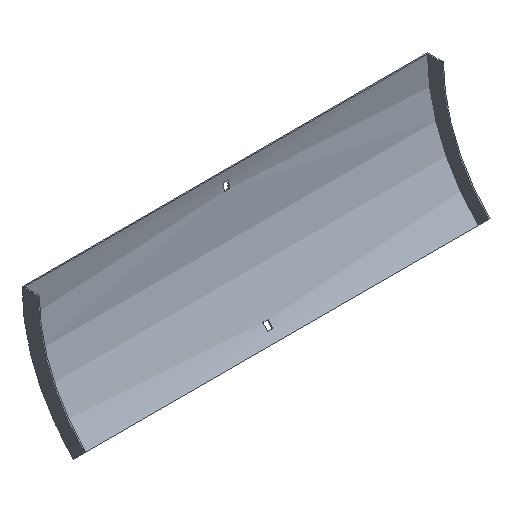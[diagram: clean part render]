
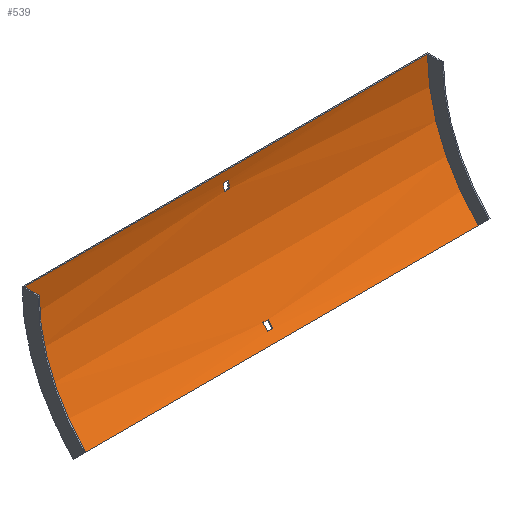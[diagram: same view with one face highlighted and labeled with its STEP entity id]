
A CAD part, isometric view. The second image highlights one B-rep face of the part: STEP entity #539.
In plain terms, the highlighted cylindrical face has radius 217.5 mm (diameter 435 mm), a partial arc.
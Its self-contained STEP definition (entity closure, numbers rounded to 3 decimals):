
#3 = VECTOR ( 'NONE', #334, 1000. ) ;
#9 = EDGE_CURVE ( 'NONE', #214, #136, #150, .T. ) ;
#17 = CARTESIAN_POINT ( 'NONE',  ( -3.25, -2.516, -21. ) ) ;
#22 = CARTESIAN_POINT ( 'NONE',  ( -3.25, -219., 0. ) ) ;
#24 = DIRECTION ( 'NONE',  ( -1., 0., 0. ) ) ;
#31 = DIRECTION ( 'NONE',  ( 0., 0., 1. ) ) ;
#38 = ORIENTED_EDGE ( 'NONE', *, *, #327, .T. ) ;
#43 = VECTOR ( 'NONE', #599, 1000. ) ;
#63 = ORIENTED_EDGE ( 'NONE', *, *, #606, .T. ) ;
#70 = EDGE_CURVE ( 'NONE', #458, #314, #195, .T. ) ;
#76 = CIRCLE ( 'NONE', #552, 217.5 ) ;
#82 = AXIS2_PLACEMENT_3D ( 'NONE', #297, #292, #533 ) ;
#86 = ORIENTED_EDGE ( 'NONE', *, *, #273, .F. ) ;
#89 = VERTEX_POINT ( 'NONE', #149 ) ;
#99 = DIRECTION ( 'NONE',  ( 0., 0., 1. ) ) ;
#102 = CARTESIAN_POINT ( 'NONE',  ( 252., -65.204, -153.796 ) ) ;
#104 = DIRECTION ( 'NONE',  ( 1., 0., 0. ) ) ;
#110 = CARTESIAN_POINT ( 'NONE',  ( -252., -65.204, -153.796 ) ) ;
#111 = CARTESIAN_POINT ( 'NONE',  ( 253.5, -2.516, -21. ) ) ;
#119 = FACE_BOUND ( 'NONE', #162, .T. ) ;
#125 = CARTESIAN_POINT ( 'NONE',  ( 252., -1.5, 0. ) ) ;
#133 = ORIENTED_EDGE ( 'NONE', *, *, #70, .F. ) ;
#136 = VERTEX_POINT ( 'NONE', #380 ) ;
#141 = EDGE_CURVE ( 'NONE', #89, #214, #566, .T. ) ;
#142 = ORIENTED_EDGE ( 'NONE', *, *, #141, .F. ) ;
#146 = CARTESIAN_POINT ( 'NONE',  ( 253.5, -1.831, -12. ) ) ;
#149 = CARTESIAN_POINT ( 'NONE',  ( 252., -65.204, -153.796 ) ) ;
#150 = CIRCLE ( 'NONE', #229, 217.5 ) ;
#152 = FACE_BOUND ( 'NONE', #445, .T. ) ;
#161 = CARTESIAN_POINT ( 'NONE',  ( 252., -1.5, 0. ) ) ;
#162 = EDGE_LOOP ( 'NONE', ( #38, #63, #287, #585 ) ) ;
#173 = EDGE_CURVE ( 'NONE', #268, #180, #354, .T. ) ;
#175 = VERTEX_POINT ( 'NONE', #17 ) ;
#176 = DIRECTION ( 'NONE',  ( -1., 0., 0. ) ) ;
#179 = DIRECTION ( 'NONE',  ( 0., 0., 1. ) ) ;
#180 = VERTEX_POINT ( 'NONE', #535 ) ;
#195 = LINE ( 'NONE', #146, #587 ) ;
#204 = LINE ( 'NONE', #111, #264 ) ;
#210 = VECTOR ( 'NONE', #505, 1000. ) ;
#214 = VERTEX_POINT ( 'NONE', #110 ) ;
#224 = LINE ( 'NONE', #420, #43 ) ;
#225 = VERTEX_POINT ( 'NONE', #412 ) ;
#229 = AXIS2_PLACEMENT_3D ( 'NONE', #339, #521, #99 ) ;
#237 = EDGE_CURVE ( 'NONE', #298, #268, #400, .T. ) ;
#250 = DIRECTION ( 'NONE',  ( 0., 0., -1. ) ) ;
#253 = CARTESIAN_POINT ( 'NONE',  ( -3.25, -56.953, -145.076 ) ) ;
#258 = ORIENTED_EDGE ( 'NONE', *, *, #528, .F. ) ;
#261 = DIRECTION ( 'NONE',  ( 0., 0., -1. ) ) ;
#262 = VECTOR ( 'NONE', #360, 1000. ) ;
#264 = VECTOR ( 'NONE', #104, 1000. ) ;
#268 = VERTEX_POINT ( 'NONE', #491 ) ;
#273 = EDGE_CURVE ( 'NONE', #225, #458, #369, .T. ) ;
#287 = ORIENTED_EDGE ( 'NONE', *, *, #237, .T. ) ;
#292 = DIRECTION ( 'NONE',  ( -1., 0., 0. ) ) ;
#297 = CARTESIAN_POINT ( 'NONE',  ( 253.5, -219., 0. ) ) ;
#298 = VERTEX_POINT ( 'NONE', #417 ) ;
#308 = CARTESIAN_POINT ( 'NONE',  ( 3.25, -219., 0. ) ) ;
#314 = VERTEX_POINT ( 'NONE', #366 ) ;
#322 = CIRCLE ( 'NONE', #355, 217.5 ) ;
#327 = EDGE_CURVE ( 'NONE', #180, #508, #224, .T. ) ;
#328 = DIRECTION ( 'NONE',  ( 0., 0., 1. ) ) ;
#334 = DIRECTION ( 'NONE',  ( -1., 0., 0. ) ) ;
#338 = EDGE_CURVE ( 'NONE', #560, #136, #549, .T. ) ;
#339 = CARTESIAN_POINT ( 'NONE',  ( -252., -219., 0. ) ) ;
#340 = DIRECTION ( 'NONE',  ( 1., 0., 0. ) ) ;
#345 = FACE_OUTER_BOUND ( 'NONE', #387, .T. ) ;
#353 = DIRECTION ( 'NONE',  ( 1., 0., 0. ) ) ;
#354 = CIRCLE ( 'NONE', #510, 217.5 ) ;
#355 = AXIS2_PLACEMENT_3D ( 'NONE', #525, #480, #179 ) ;
#358 = CARTESIAN_POINT ( 'NONE',  ( 3.25, -219., 0. ) ) ;
#360 = DIRECTION ( 'NONE',  ( 1., 0., 0. ) ) ;
#366 = CARTESIAN_POINT ( 'NONE',  ( -3.25, -1.831, -12. ) ) ;
#369 = CIRCLE ( 'NONE', #454, 217.5 ) ;
#380 = CARTESIAN_POINT ( 'NONE',  ( -252., -1.5, 0. ) ) ;
#383 = EDGE_CURVE ( 'NONE', #314, #175, #415, .T. ) ;
#387 = EDGE_LOOP ( 'NONE', ( #526, #142, #588, #591 ) ) ;
#398 = CYLINDRICAL_SURFACE ( 'NONE', #82, 217.5 ) ;
#400 = LINE ( 'NONE', #410, #262 ) ;
#410 = CARTESIAN_POINT ( 'NONE',  ( 253.5, -51.074, -138.228 ) ) ;
#412 = CARTESIAN_POINT ( 'NONE',  ( 3.25, -2.516, -21. ) ) ;
#415 = CIRCLE ( 'NONE', #530, 217.5 ) ;
#417 = CARTESIAN_POINT ( 'NONE',  ( -3.25, -51.074, -138.228 ) ) ;
#420 = CARTESIAN_POINT ( 'NONE',  ( 253.5, -56.953, -145.076 ) ) ;
#429 = DIRECTION ( 'NONE',  ( -1., 0., 0. ) ) ;
#431 = CARTESIAN_POINT ( 'NONE',  ( -3.25, -219., 0. ) ) ;
#445 = EDGE_LOOP ( 'NONE', ( #516, #133, #86, #258 ) ) ;
#454 = AXIS2_PLACEMENT_3D ( 'NONE', #358, #353, #261 ) ;
#458 = VERTEX_POINT ( 'NONE', #602 ) ;
#480 = DIRECTION ( 'NONE',  ( 1., 0., 0. ) ) ;
#491 = CARTESIAN_POINT ( 'NONE',  ( 3.25, -51.074, -138.228 ) ) ;
#496 = EDGE_CURVE ( 'NONE', #89, #560, #322, .T. ) ;
#505 = DIRECTION ( 'NONE',  ( -1., 0., 0. ) ) ;
#508 = VERTEX_POINT ( 'NONE', #253 ) ;
#510 = AXIS2_PLACEMENT_3D ( 'NONE', #308, #24, #31 ) ;
#516 = ORIENTED_EDGE ( 'NONE', *, *, #383, .F. ) ;
#521 = DIRECTION ( 'NONE',  ( 1., 0., 0. ) ) ;
#525 = CARTESIAN_POINT ( 'NONE',  ( 252., -219., 0. ) ) ;
#526 = ORIENTED_EDGE ( 'NONE', *, *, #9, .F. ) ;
#528 = EDGE_CURVE ( 'NONE', #175, #225, #204, .T. ) ;
#530 = AXIS2_PLACEMENT_3D ( 'NONE', #431, #176, #328 ) ;
#533 = DIRECTION ( 'NONE',  ( 0., 0., 1. ) ) ;
#535 = CARTESIAN_POINT ( 'NONE',  ( 3.25, -56.953, -145.076 ) ) ;
#539 = ADVANCED_FACE ( 'NONE', ( #152, #345, #119 ), #398, .F. ) ;
#549 = LINE ( 'NONE', #125, #210 ) ;
#552 = AXIS2_PLACEMENT_3D ( 'NONE', #22, #340, #250 ) ;
#560 = VERTEX_POINT ( 'NONE', #161 ) ;
#566 = LINE ( 'NONE', #102, #3 ) ;
#585 = ORIENTED_EDGE ( 'NONE', *, *, #173, .T. ) ;
#587 = VECTOR ( 'NONE', #429, 1000. ) ;
#588 = ORIENTED_EDGE ( 'NONE', *, *, #496, .T. ) ;
#591 = ORIENTED_EDGE ( 'NONE', *, *, #338, .T. ) ;
#599 = DIRECTION ( 'NONE',  ( -1., 0., 0. ) ) ;
#602 = CARTESIAN_POINT ( 'NONE',  ( 3.25, -1.831, -12. ) ) ;
#606 = EDGE_CURVE ( 'NONE', #508, #298, #76, .T. ) ;
